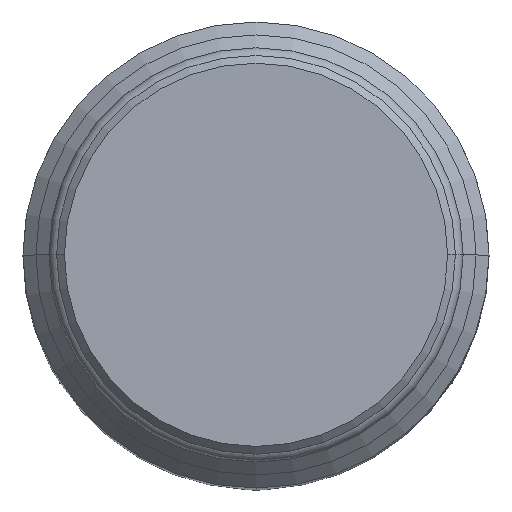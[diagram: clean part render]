
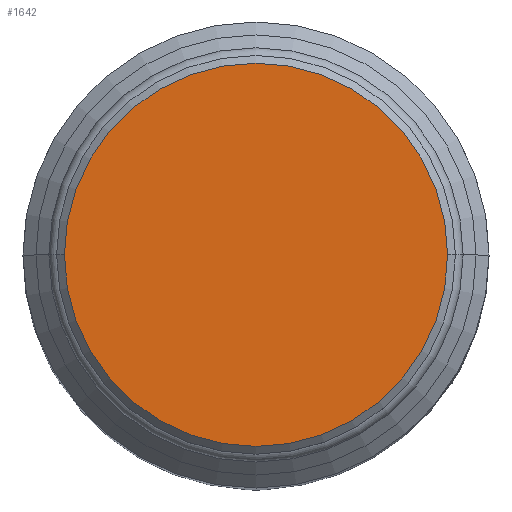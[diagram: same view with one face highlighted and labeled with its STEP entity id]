
A CAD part, top view. The second image highlights one B-rep face of the part: STEP entity #1642.
In plain terms, the highlighted planar face has unit normal (0, 0, 1).
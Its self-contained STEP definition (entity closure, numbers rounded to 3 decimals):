
#796=CARTESIAN_POINT('',(0.,0.,0.));
#797=DIRECTION('',(0.,0.,-1.));
#798=DIRECTION('',(1.,0.,0.));
#799=AXIS2_PLACEMENT_3D('',#796,#797,#798);
#804=CARTESIAN_POINT('',(0.,0.,0.));
#805=DIRECTION('',(0.,0.,-1.));
#806=DIRECTION('',(-1.,0.,0.));
#807=AXIS2_PLACEMENT_3D('',#804,#805,#806);
#933=CARTESIAN_POINT('',(7.4,0.,0.));
#934=CARTESIAN_POINT('',(-7.4,0.,0.));
#935=VERTEX_POINT('',#933);
#936=VERTEX_POINT('',#934);
#1633=CARTESIAN_POINT('',(0.,0.,0.));
#1634=DIRECTION('',(0.,0.,-1.));
#1635=DIRECTION('',(1.,0.,0.));
#1636=AXIS2_PLACEMENT_3D('',#1633,#1634,#1635);
#1637=PLANE('',#1636);
#1638=ORIENTED_EDGE('',*,*,#1600,.T.);
#1639=ORIENTED_EDGE('',*,*,#1615,.T.);
#1640=EDGE_LOOP('',(#1638,#1639));
#1641=FACE_OUTER_BOUND('',#1640,.F.);
#800=CIRCLE('',#799,7.4);
#808=CIRCLE('',#807,7.4);
#1600=EDGE_CURVE('',#935,#936,#800,.T.);
#1615=EDGE_CURVE('',#936,#935,#808,.T.);
#1642=ADVANCED_FACE('',(#1641),#1637,.F.);
